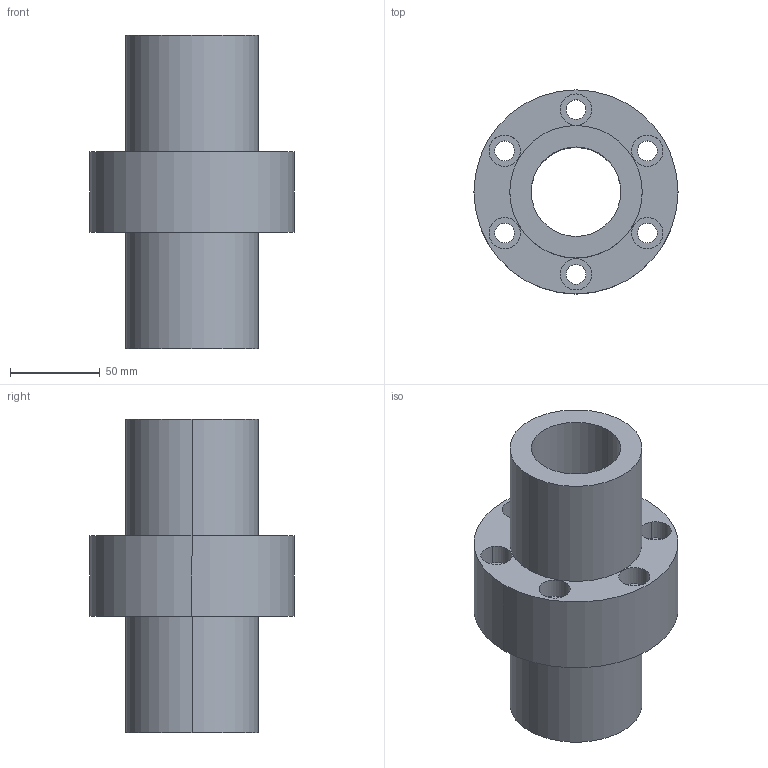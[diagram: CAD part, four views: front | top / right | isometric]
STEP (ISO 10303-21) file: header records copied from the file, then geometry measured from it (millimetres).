
FILE_DESCRIPTION((''),'2;1');
FILE_NAME('50-10T3','2008-04-07T',('yanyu'),(''),'PRO/ENGINEER BY PARAMETRIC TECHNOLOGY CORPORATION, 2005070','PRO/ENGINEER BY PARAMETRIC TECHNOLOGY CORPORATION, 2005070','');
FILE_SCHEMA(('CONFIG_CONTROL_DESIGN'));
Length unit declared in the file: millimetre
Products named in the file (1): 50-10T3
Bounding box: 114 x 114 x 175 mm (x, y, z)
Volume: 639552.5 mm3; surface area: 99852.4 mm2
Topology: 1 solids, 1 shells, 42 faces, 100 edges, 68 vertices
Faces by surface type: cylinder 32, plane 10
Entity records: 1330 total; most frequent: DIRECTION 252, CARTESIAN_POINT 210, ORIENTED_EDGE 200, AXIS2_PLACEMENT_3D 110, EDGE_CURVE 100, VERTEX_POINT 68, CIRCLE 68, EDGE_LOOP 64
